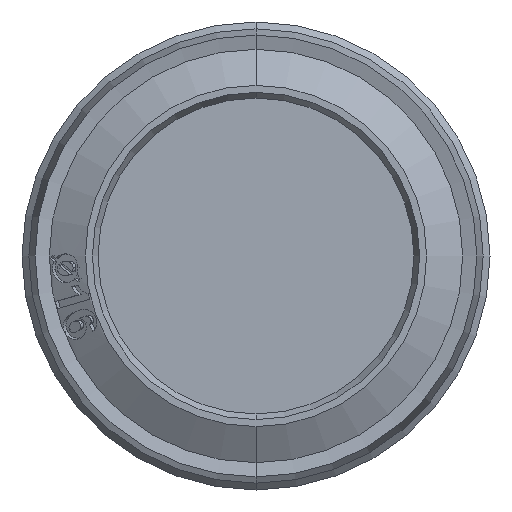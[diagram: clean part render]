
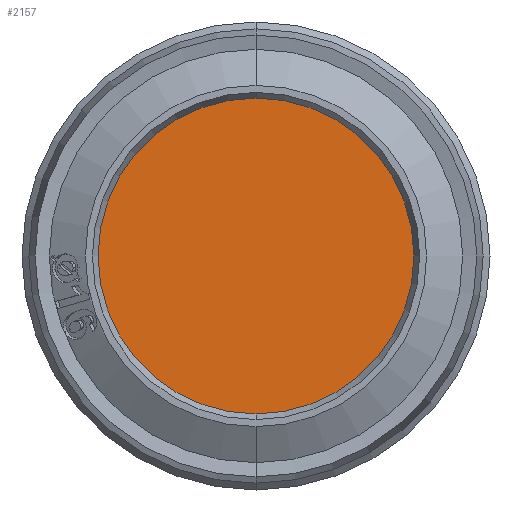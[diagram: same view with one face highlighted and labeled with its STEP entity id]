
A CAD part, front view. The second image highlights one B-rep face of the part: STEP entity #2157.
In plain terms, the highlighted planar face has unit normal (0, -1, 0).
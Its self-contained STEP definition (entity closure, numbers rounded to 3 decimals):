
#170 = FACE_OUTER_BOUND ( 'NONE', #4509, .T. ) ;
#231 = DIRECTION ( 'NONE',  ( 0., -1., 0. ) ) ;
#259 = ORIENTED_EDGE ( 'NONE', *, *, #3669, .T. ) ;
#595 = PLANE ( 'NONE',  #1945 ) ;
#597 = AXIS2_PLACEMENT_3D ( 'NONE', #3945, #231, #2085 ) ;
#698 = VERTEX_POINT ( 'NONE', #4377 ) ;
#907 = DIRECTION ( 'NONE',  ( 0., 0., -1. ) ) ;
#1025 = DIRECTION ( 'NONE',  ( 0., 0., -1. ) ) ;
#1876 = DIRECTION ( 'NONE',  ( 0., -1., 0. ) ) ;
#1906 = CARTESIAN_POINT ( 'NONE',  ( 0., 17.25, 0. ) ) ;
#1945 = AXIS2_PLACEMENT_3D ( 'NONE', #4317, #5288, #1025 ) ;
#2085 = DIRECTION ( 'NONE',  ( 0., 0., -1. ) ) ;
#2157 = ADVANCED_FACE ( 'NONE', ( #170 ), #595, .T. ) ;
#3314 = CIRCLE ( 'NONE', #597, 8.1 ) ;
#3347 = CIRCLE ( 'NONE', #4230, 8.1 ) ;
#3669 = EDGE_CURVE ( 'NONE', #5982, #698, #3347, .T. ) ;
#3778 = ORIENTED_EDGE ( 'NONE', *, *, #5604, .T. ) ;
#3945 = CARTESIAN_POINT ( 'NONE',  ( 0., 17.25, 0. ) ) ;
#4230 = AXIS2_PLACEMENT_3D ( 'NONE', #1906, #1876, #907 ) ;
#4317 = CARTESIAN_POINT ( 'NONE',  ( 0., 17.25, 0. ) ) ;
#4377 = CARTESIAN_POINT ( 'NONE',  ( 0., 17.25, -8.1 ) ) ;
#4509 = EDGE_LOOP ( 'NONE', ( #259, #3778 ) ) ;
#5288 = DIRECTION ( 'NONE',  ( 0., -1., 0. ) ) ;
#5338 = CARTESIAN_POINT ( 'NONE',  ( 0., 17.25, 8.1 ) ) ;
#5604 = EDGE_CURVE ( 'NONE', #698, #5982, #3314, .T. ) ;
#5982 = VERTEX_POINT ( 'NONE', #5338 ) ;
